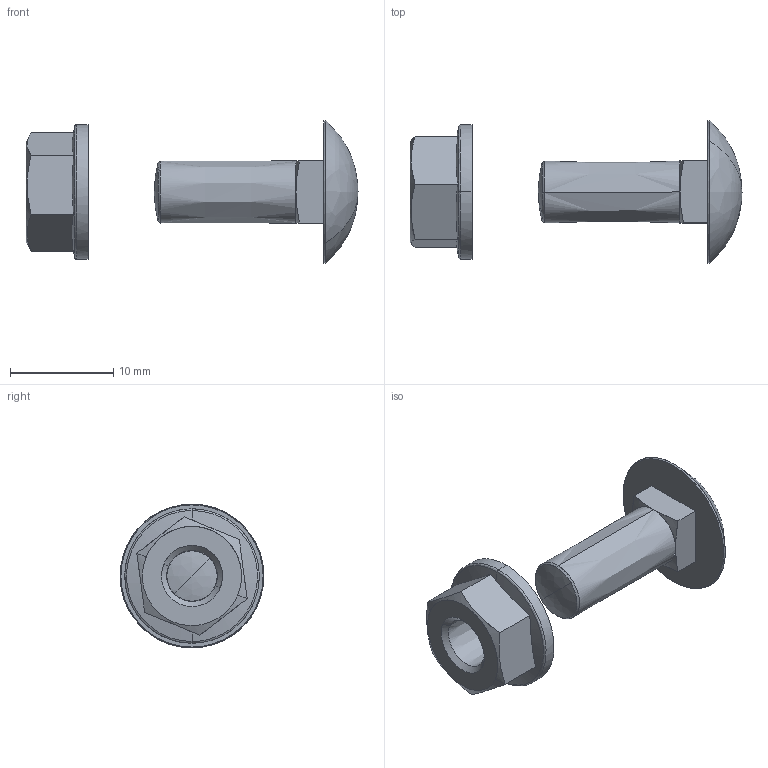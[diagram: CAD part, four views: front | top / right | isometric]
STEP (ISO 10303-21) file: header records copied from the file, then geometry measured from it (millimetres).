
FILE_DESCRIPTION(/* description */ (''),/* implementation_level */ '2;1');
FILE_NAME(/* name */ 'SPM1',/* time_stamp */ '2012-11-29T22:16:07+01:00',/* author */ (''),/* organization */ (''),/* preprocessor_version */ 'ST-DEVELOPER v10',/* originating_system */ '',/* authorisation */ '');
FILE_SCHEMA (('AUTOMOTIVE_DESIGN_CC2'));
Length unit declared in the file: millimetre
Products named in the file (1): 1
Bounding box: 32.13 x 13.91 x 13.91 mm (x, y, z)
Surface area: 1181.7 mm2 (no closed solid volume)
Topology: 0 solids, 32 shells, 45 faces, 188 edges, 183 vertices
Faces by surface type: bspline 32, plane 13
Entity records: 4770 total; most frequent: CARTESIAN_POINT 3504, ORIENTED_EDGE 187, EDGE_CURVE 161, B_SPLINE_CURVE_WITH_KNOTS 145, VERTEX_POINT 137, COLOUR_RGB 56, PRESENTATION_STYLE_ASSIGNMENT 56, STYLED_ITEM 56
